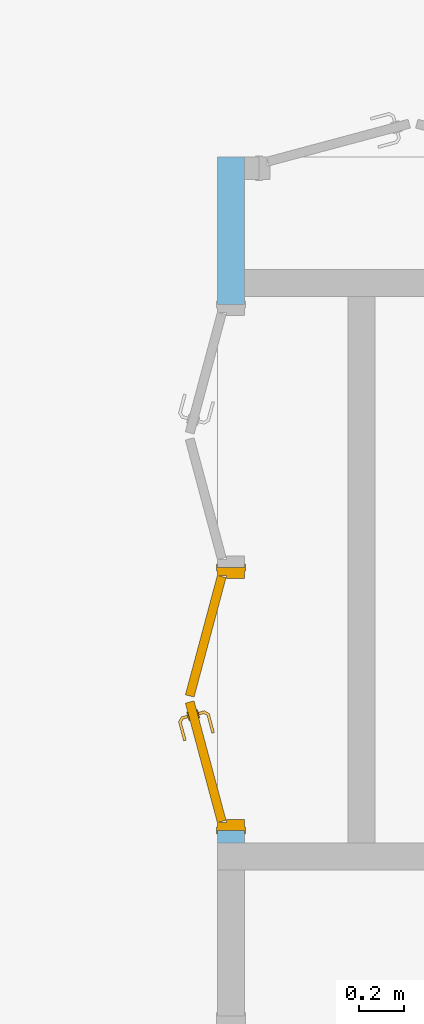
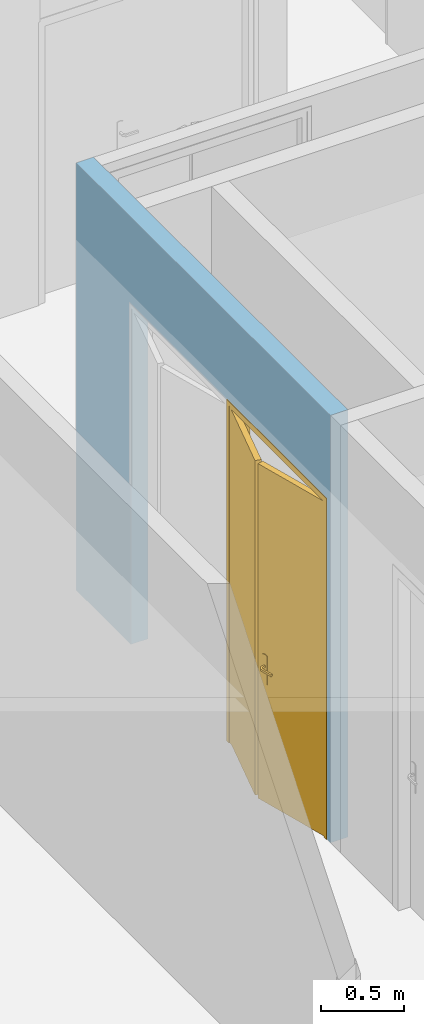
# One storey, part 193 of 240: 1 door, 2 openings, plus 1 element that does not belong to this part.
"""IFC2X3 building model written with IfcOpenShell, lengths in centimetres."""

from ifc_helpers import new_model, entity, si_unit, converted_unit, derived_unit, direction, frame, frame_2d, origin, place, context, subcontext, project, spatial, rectangle, extrude, faceted_brep, source, transform, mapped, material, material_list, layer, layer_set, layer_usage, type_object, type_shapes, element, fill, save


model = new_model("IFC2X3")

# Units and contexts
model_context = context("Model", 3, precision=0.001, world=origin(), true_north=direction((6.12303176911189e-17, 1.0)))
body_context = subcontext(model_context, "Body", "Model", "MODEL_VIEW")
ifc_project = project(units=[si_unit("LENGTHUNIT", "METRE", prefix="CENTI"), si_unit("AREAUNIT", "SQUARE_METRE"), si_unit("VOLUMEUNIT", "CUBIC_METRE"), converted_unit("PLANEANGLEUNIT", "DEGREE", entity("IfcRatioMeasure", 0.0174532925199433), si_unit("PLANEANGLEUNIT", "RADIAN"), dimensions=[0, 0, 0, 0, 0, 0, 0]), si_unit("MASSUNIT", "GRAM", prefix="KILO"), derived_unit("MASSDENSITYUNIT", [(si_unit("MASSUNIT", "GRAM", prefix="KILO"), 1), (si_unit("LENGTHUNIT", "METRE"), -3)]), si_unit("TIMEUNIT", "SECOND"), si_unit("FREQUENCYUNIT", "HERTZ"), si_unit("THERMODYNAMICTEMPERATUREUNIT", "DEGREE_CELSIUS"), derived_unit("THERMALTRANSMITTANCEUNIT", [(si_unit("MASSUNIT", "GRAM", prefix="KILO"), 1), (si_unit("THERMODYNAMICTEMPERATUREUNIT", "KELVIN"), -1), (si_unit("TIMEUNIT", "SECOND"), -3)]), derived_unit("VOLUMETRICFLOWRATEUNIT", [(si_unit("LENGTHUNIT", "METRE"), 3), (si_unit("TIMEUNIT", "SECOND"), -1)]), si_unit("ELECTRICCURRENTUNIT", "AMPERE"), si_unit("ELECTRICVOLTAGEUNIT", "VOLT"), si_unit("POWERUNIT", "WATT"), si_unit("FORCEUNIT", "NEWTON", prefix="KILO"), si_unit("ILLUMINANCEUNIT", "LUX"), si_unit("LUMINOUSFLUXUNIT", "LUMEN"), si_unit("LUMINOUSINTENSITYUNIT", "CANDELA"), derived_unit("USERDEFINED", [(si_unit("MASSUNIT", "GRAM", prefix="KILO"), -1), (si_unit("LENGTHUNIT", "METRE"), -2), (si_unit("TIMEUNIT", "SECOND"), 3), (si_unit("LUMINOUSFLUXUNIT", "LUMEN"), 1)]), derived_unit("LINEARVELOCITYUNIT", [(si_unit("LENGTHUNIT", "METRE"), 1), (si_unit("TIMEUNIT", "SECOND"), -1)]), si_unit("PRESSUREUNIT", "PASCAL"), derived_unit("USERDEFINED", [(si_unit("LENGTHUNIT", "METRE"), -2), (si_unit("MASSUNIT", "GRAM", prefix="KILO"), 1), (si_unit("TIMEUNIT", "SECOND"), -2)])], contexts=[model_context])

# Site, building, storey
site_placement = place(None, frame((-2781.94577612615, 7442.24238424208, 0.0)))
site = spatial("IfcSite", under=ifc_project, at=site_placement, Name="Default", CompositionType="ELEMENT")
building_placement = place(site_placement, origin())
building = spatial("IfcBuilding", under=site, at=building_placement, CompositionType="ELEMENT")
storey_placement = place(building_placement, origin())
storey = spatial("IfcBuildingStorey", under=building, at=storey_placement, Name="N00 - COO", CompositionType="ELEMENT", Elevation=0.0)

# Wall, openings, door
ifc_material_1 = material(Name="01 - Enduit/Plâtre")
ifc_layer_1 = layer(ifc_material_1, 1.0)
ifc_material_2 = material(Name="Maçonnerie - Béton")
ifc_layer_2 = layer(ifc_material_2, 10.0)
ifc_layer_3 = layer(ifc_material_1, 1.0)
ifc_layer_set = layer_set([ifc_layer_1, ifc_layer_2, ifc_layer_3], Name="Mur de base:06 - cloisons - agglos10 + faïence 12cm")
ifc_layer_usage = layer_usage(ifc_layer_set, "AXIS2", "NEGATIVE", 6.0)
wall_type = type_object("IfcWallType", Name="Mur de base:06 - cloisons - agglos10 + faïence 12cm", PredefinedType="STANDARD", material=ifc_layer_set)
wall_placement = place(building_placement, frame((-10470.6130476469, -2673.07903364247, 0.0), z_axis=(0.0, 0.0, 1.0), x_axis=(0.0, -1.0, 0.0)))
wall = element("IfcWallStandardCase", 1, at=wall_placement, inside=storey, type_object=wall_type, material=ifc_layer_usage, Name="Mur de base:06 - cloisons - agglos10 + faïence 12cm", ObjectType="Mur de base:06 - cloisons - agglos10 + faïence 12cm", context=body_context, shape_type="SweptSolid", body=[
    extrude(rectangle(XDim=305.000000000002, YDim=12.0000000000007, at=frame_2d((152.500000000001, 0.0), x_axis=(-1.0, 0.0))), origin(), (0.0, 0.0, 1.0), 313.0),
])
opening_1_placement = place(wall_placement, frame((182.500000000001, 6.0, 0.0)))
element("IfcOpeningElement", 2, at=opening_1_placement, cuts=wall, Name="Int. Double:PP Placard (1.10m x 2.50m):1", ObjectType="Opening", context=body_context, shape_type="SweptSolid", body=[
    extrude(rectangle(XDim=248.500000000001, YDim=117.0, at=frame_2d((124.250000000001, 58.5000000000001), x_axis=(1.0, 0.0))), frame((0.0, 0.0, 0.0), z_axis=(0.0, -1.0, 0.0), x_axis=(0.0, 0.0, 1.0)), (0.0, 0.0, 1.0), 12.0),
])
opening_2_placement = place(wall_placement, frame((299.500000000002, 6.0, 0.0)))
opening_2 = element("IfcOpeningElement", 3, at=opening_2_placement, cuts=wall, Name="Int. Double:PP Placard (1.10m x 2.50m):1", ObjectType="Opening", context=body_context, shape_type="SweptSolid", body=[
    extrude(rectangle(XDim=248.500000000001, YDim=117.0, at=frame_2d((124.250000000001, 58.5000000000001), x_axis=(1.0, 0.0))), frame((0.0, 0.0, 0.0), z_axis=(0.0, -1.0, 0.0), x_axis=(0.0, 0.0, 1.0)), (0.0, 0.0, 1.0), 12.0),
])
ifc_material_3 = material(Name="Bois - Panneau de porte")
ifc_material_4 = material(Name="Finition Peinture - Blanc satiné")
ifc_material_5 = material(Name="Bois - Cadre de porte")
ifc_material_list_1 = material_list([ifc_material_3, ifc_material_4, ifc_material_5])
ifc_material_list_2 = material_list([ifc_material_3, ifc_material_4, ifc_material_5])
door_style = type_object("IfcDoorStyle", Name="PP Placard (1.10m x 2.50m)", ConstructionType="NOTDEFINED", OperationType="DOUBLE_DOOR_SINGLE_SWING", ParameterTakesPrecedence=False, Sizeable=False, material=ifc_material_list_2)
shared_shape = source(origin(), body_context, "Body", "Brep", [
    faceted_brep([(57.6611966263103, -10.3713441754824, 245.0), (57.6611966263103, -10.3713441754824, 0.0), (4.53527618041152, 3.86370330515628, 0.0), (4.53527618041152, 3.86370330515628, 245.0), (56.6259204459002, -14.2350474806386, 245.0), (3.50000000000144, 0.0, 245.0), (3.50000000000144, 0.0, 0.0), (56.6259204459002, -14.2350474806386, 0.0)], [[[0, 1, 2, 3]], [[4, 5, 6, 7]], [[3, 5, 4, 0]], [[2, 6, 5, 3]], [[1, 7, 6, 2]], [[0, 4, 7, 1]]]),
    faceted_brep([(67.2990440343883, -12.897146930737, 86.6003983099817), (68.2308956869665, -12.6474580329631, 87.0), (68.2308956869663, -12.6474580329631, 108.0), (67.2990440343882, -12.897146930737, 108.399601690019), (66.2990440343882, -13.1650961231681, 108.535898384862), (65.2990440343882, -13.4330453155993, 108.399601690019), (64.3671923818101, -13.6827342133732, 108.0), (64.3671923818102, -13.6827342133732, 87.0), (65.2990440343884, -13.4330453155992, 86.6003983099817), (66.2990440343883, -13.1650961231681, 86.464101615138), (67.169634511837, -12.4141840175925, 108.399601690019), (68.1014861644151, -12.1644951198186, 108.0), (68.1014861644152, -12.1644951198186, 87.0), (67.1696345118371, -12.4141840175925, 86.6003983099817), (66.1696345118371, -12.6821332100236, 86.464101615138), (65.1696345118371, -12.9500824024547, 86.6003983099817), (64.2377828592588, -13.1997713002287, 87.0), (64.2377828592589, -13.1997713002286, 108.0), (65.169634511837, -12.9500824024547, 108.399601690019), (66.169634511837, -12.6821332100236, 108.535898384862)], [[[0, 1, 2, 3, 4, 5, 6, 7, 8, 9]], [[10, 11, 12, 13, 14, 15, 16, 17, 18, 19]], [[16, 15, 8, 7]], [[8, 15, 14, 9]], [[14, 13, 0, 9]], [[13, 12, 1, 0]], [[2, 1, 12, 11]], [[11, 10, 3, 2]], [[3, 10, 19, 4]], [[19, 18, 5, 4]], [[18, 17, 6, 5]], [[7, 6, 17, 16]]]),
    faceted_brep([(66.134358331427, -8.55048071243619, 86.6003983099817), (67.0662099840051, -8.30079181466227, 87.0), (67.066209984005, -8.30079181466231, 108.0), (66.1343583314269, -8.55048071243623, 108.399601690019), (65.1343583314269, -8.81842990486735, 108.535898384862), (64.1343583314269, -9.08637909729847, 108.399601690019), (63.2025066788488, -9.33606799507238, 108.0), (63.2025066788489, -9.33606799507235, 87.0), (64.134358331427, -9.08637909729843, 86.6003983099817), (65.134358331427, -8.81842990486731, 86.464101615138), (66.0049488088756, -8.0675177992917, 108.399601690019), (66.9368004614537, -7.81782890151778, 108.0), (66.9368004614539, -7.81782890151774, 87.0), (66.0049488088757, -8.06751779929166, 86.6003983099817), (65.0049488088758, -8.33546699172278, 86.464101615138), (64.0049488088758, -8.6034161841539, 86.6003983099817), (63.0730971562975, -8.85310508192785, 87.0), (63.0730971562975, -8.85310508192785, 108.0), (64.0049488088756, -8.60341618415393, 108.399601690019), (65.0049488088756, -8.33546699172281, 108.535898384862)], [[[0, 1, 2, 3, 4, 5, 6, 7, 8, 9]], [[10, 11, 12, 13, 14, 15, 16, 17, 18, 19]], [[11, 10, 3, 2]], [[3, 10, 19, 4]], [[19, 18, 5, 4]], [[18, 17, 6, 5]], [[7, 6, 17, 16]], [[16, 15, 8, 7]], [[8, 15, 14, 9]], [[14, 13, 0, 9]], [[13, 12, 1, 0]], [[2, 1, 12, 11]]]),
    faceted_brep([(66.1034152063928, -13.2175147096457, 100.778044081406), (66.4946728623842, -13.1126775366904, 100.778044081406), (66.8785995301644, -13.0098046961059, 100.699999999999), (66.8785995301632, -13.0098046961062, 99.3000000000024), (66.4946728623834, -13.1126775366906, 99.2219559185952), (66.1034152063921, -13.217514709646, 99.221955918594), (65.7194885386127, -13.3203875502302, 99.2999999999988), (65.7194885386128, -13.3203875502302, 100.7), (66.4351478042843, -15.9912642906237, 100.7), (66.7764631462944, -15.7293638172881, 100.778044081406), (68.742041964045, -16.8641912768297, 100.778044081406), (68.7992690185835, -16.4295086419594, 100.778044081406), (67.1242958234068, -15.4624624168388, 100.778044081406), (67.4656111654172, -15.200561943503, 100.7), (67.4656111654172, -15.2005619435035, 99.3000000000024), (67.1242958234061, -15.4624624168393, 99.2219559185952), (68.7992690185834, -16.4295086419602, 99.2219559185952), (68.7420419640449, -16.8641912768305, 99.221955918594), (66.7764631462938, -15.7293638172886, 99.221955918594), (66.4351478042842, -15.9912642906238, 99.2999999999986), (68.6858871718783, -17.2907292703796, 100.7), (68.8554238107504, -16.0029706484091, 100.7), (68.8554238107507, -16.0029706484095, 99.3000000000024), (68.6858871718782, -17.2907292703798, 99.2999999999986), (77.1513993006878, -15.0224021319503, 99.2999999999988), (77.0485264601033, -14.63847546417, 99.221955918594), (76.9436892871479, -14.2472178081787, 99.2219559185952), (76.8408164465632, -13.8632911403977, 99.3000000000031), (76.8408164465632, -13.8632911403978, 100.7), (76.9436892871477, -14.2472178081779, 100.778044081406), (77.048526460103, -14.6384754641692, 100.778044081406), (77.1513993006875, -15.0224021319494, 100.699999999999), (72.5428760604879, -16.257252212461, 100.7), (72.9238977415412, -15.5339920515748, 100.78786867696), (72.8481201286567, -14.9331308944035, 100.7), (72.8481201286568, -14.9331308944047, 99.3000000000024), (72.9238977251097, -15.5339920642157, 99.2121313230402), (72.5428763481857, -16.2572521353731, 99.2999999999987)], [[[0, 1, 2, 3, 4, 5, 6, 7]], [[8, 9, 0, 7]], [[9, 10, 11, 12, 1, 0]], [[12, 13, 2, 1]], [[3, 2, 13, 14]], [[14, 15, 4, 3]], [[15, 16, 17, 18, 5, 4]], [[18, 19, 6, 5]], [[7, 6, 19, 8]], [[20, 10, 9, 8]], [[11, 21, 13, 12]], [[14, 13, 21, 22]], [[22, 16, 15, 14]], [[17, 23, 19, 18]], [[8, 19, 23, 20]], [[24, 25, 26, 27, 28, 29, 30, 31]], [[32, 30, 33]], [[31, 30, 32]], [[10, 20, 32]], [[33, 34, 11]], [[21, 11, 34]], [[34, 29, 28]], [[30, 29, 33]], [[29, 34, 33]], [[10, 32, 33]], [[10, 33, 11]], [[22, 21, 34, 28, 27, 35]], [[35, 26, 36]], [[37, 36, 25]], [[22, 35, 16]], [[35, 27, 26]], [[24, 37, 25]], [[23, 17, 37]], [[37, 17, 36]], [[17, 16, 36]], [[16, 35, 36]], [[25, 36, 26]], [[20, 23, 37, 24, 31, 32]]]),
    faceted_brep([(64.8093199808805, -8.38788557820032, 100.778044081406), (64.4253933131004, -8.49075841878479, 100.7), (64.4253933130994, -8.49075841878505, 99.2999999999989), (64.8093199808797, -8.38788557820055, 99.221955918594), (65.2005776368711, -8.28304840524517, 99.2219559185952), (65.5845043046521, -8.18017556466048, 99.3000000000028), (65.5845043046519, -8.18017556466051, 100.7), (65.2005776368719, -8.28304840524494, 100.778044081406), (65.0025443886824, -6.00827159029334, 99.3000000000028), (65.0025443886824, -6.00827159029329, 100.7), (64.5760063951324, -5.95211679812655, 100.778044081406), (65.5527759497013, -4.26030230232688, 100.778044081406), (65.285874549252, -3.9124696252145, 100.778044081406), (64.141323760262, -5.89488974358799, 100.778044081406), (63.7147857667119, -5.83873495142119, 100.7), (63.7147857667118, -5.8387349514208, 99.2999999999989), (64.1413237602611, -5.89488974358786, 99.221955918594), (65.2858745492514, -3.91246962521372, 99.221955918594), (65.5527759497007, -4.26030230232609, 99.2219559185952), (64.5760063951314, -5.95211679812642, 99.2219559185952), (65.814676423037, -4.60161764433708, 99.3000000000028), (65.814676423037, -4.60161764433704, 100.7), (65.0239740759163, -3.57115428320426, 100.7), (65.0239740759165, -3.57115428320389, 99.2999999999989), (73.789408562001, -2.46479460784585, 99.3000000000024), (73.6865357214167, -2.08086794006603, 99.2219559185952), (73.5816985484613, -1.68961028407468, 99.221955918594), (73.4788257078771, -1.30568361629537, 99.2999999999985), (73.4788257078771, -1.30568361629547, 100.7), (73.5816985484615, -1.68961028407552, 100.778044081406), (73.6865357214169, -2.08086794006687, 100.778044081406), (73.7894085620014, -2.46479460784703, 100.7), (69.8020413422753, -3.53320643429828, 99.3000000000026), (69.8020424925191, -3.53320612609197, 100.7), (69.5672372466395, -2.97495629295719, 100.78786867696), (68.8809629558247, -2.53767722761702, 100.7), (68.880962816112, -2.53767726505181, 99.2999999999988), (69.5672372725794, -2.97495629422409, 99.2121313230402)], [[[0, 1, 2, 3, 4, 5, 6, 7]], [[6, 5, 8, 9]], [[9, 10, 7, 6]], [[10, 11, 12, 13, 0, 7]], [[13, 14, 1, 0]], [[2, 1, 14, 15]], [[15, 16, 3, 2]], [[16, 17, 18, 19, 4, 3]], [[19, 8, 5, 4]], [[9, 8, 20, 21]], [[21, 11, 10, 9]], [[12, 22, 14, 13]], [[15, 14, 22, 23]], [[23, 17, 16, 15]], [[18, 20, 8, 19]], [[24, 25, 26, 27, 28, 29, 30, 31]], [[21, 20, 32, 24, 31, 33]], [[33, 30, 34]], [[35, 34, 29]], [[21, 33, 11]], [[33, 31, 30]], [[28, 35, 29]], [[22, 12, 35]], [[35, 12, 34]], [[12, 11, 34]], [[11, 33, 34]], [[29, 34, 30]], [[22, 35, 28, 27, 36, 23]], [[36, 26, 37]], [[27, 26, 36]], [[17, 23, 36]], [[37, 32, 18]], [[20, 18, 32]], [[32, 25, 24]], [[26, 25, 37]], [[25, 32, 37]], [[17, 36, 37]], [[17, 37, 18]]]),
    faceted_brep([(59.3388033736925, -10.3713441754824, 245.0), (112.464723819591, 3.86370330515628, 245.0), (112.464723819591, 3.86370330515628, 0.0), (59.3388033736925, -10.3713441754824, 0.0), (60.3740795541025, -14.2350474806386, 245.0), (60.3740795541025, -14.2350474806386, 0.0), (113.500000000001, 0.0, 0.0), (113.500000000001, 0.0, 245.0)], [[[0, 1, 2, 3]], [[4, 5, 6, 7]], [[1, 0, 4, 7]], [[2, 1, 7, 6]], [[3, 2, 6, 5]], [[0, 3, 5, 4]]]),
    faceted_brep([(0.0, 0.0, 0.0), (0.0, 12.0, 0.0), (5.0, 12.0, 0.0), (5.0, 4.0, 0.0), (3.50000000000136, 4.0, 0.0), (3.50000000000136, 0.0, 0.0), (0.0, 0.0, 248.500000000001), (0.0, 12.0, 248.500000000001), (117.0, 12.0, 248.500000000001), (117.0, 12.0, 0.0), (112.0, 12.0, 0.0), (112.0, 12.0, 243.5), (5.0, 12.0, 243.5), (5.0, 4.0, 243.5), (112.0, 4.0, 243.5), (112.0, 4.0, 0.0), (113.499999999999, 4.0, 0.0), (113.499999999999, 4.0, 245.0), (3.50000000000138, 4.0, 245.0), (3.50000000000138, 0.0, 245.0), (113.499999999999, 0.0, 245.0), (113.499999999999, 0.0, 0.0), (117.0, 0.0, 0.0), (117.0, 0.0, 248.500000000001)], [[[0, 1, 2, 3, 4, 5]], [[1, 0, 6, 7]], [[2, 1, 7, 8, 9, 10, 11, 12]], [[3, 2, 12, 13]], [[4, 3, 13, 14, 15, 16, 17, 18]], [[5, 4, 18, 19]], [[0, 5, 19, 20, 21, 22, 23, 6]], [[8, 23, 22, 9]], [[22, 21, 16, 15, 10, 9]], [[14, 11, 10, 15]], [[20, 17, 16, 21]], [[7, 6, 23, 8]], [[13, 12, 11, 14]], [[19, 18, 17, 20]]]),
    faceted_brep([(1.50000000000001, 12.0, 0.0), (-1.49999999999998, 12.0, 0.0), (-1.49999999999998, 12.5000000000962, 0.0), (1.50000000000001, 12.5000000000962, 0.0), (1.50000000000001, 12.0, 247.0), (115.5, 12.0, 247.0), (115.5, 12.0, 0.0), (118.5, 12.0, 0.0), (118.5, 12.0, 250.0), (-1.5, 12.0, 250.0), (-1.5, 12.5000000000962, 250.0), (118.5, 12.5000000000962, 250.0), (118.5, 12.5000000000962, 0.0), (115.5, 12.5000000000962, 0.0), (115.5, 12.5000000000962, 247.0), (1.50000000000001, 12.5000000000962, 247.0)], [[[0, 1, 2, 3]], [[1, 0, 4, 5, 6, 7, 8, 9]], [[2, 1, 9, 10]], [[3, 2, 10, 11, 12, 13, 14, 15]], [[0, 3, 15, 4]], [[5, 14, 13, 6]], [[6, 13, 12, 7]], [[11, 8, 7, 12]], [[10, 9, 8, 11]], [[4, 15, 14, 5]]]),
    faceted_brep([(-1.49999999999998, -0.499999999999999, 0.0), (1.50000000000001, -0.499999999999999, 0.0), (1.50000000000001, -0.499999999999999, 247.0), (115.5, -0.499999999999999, 247.0), (115.5, -0.499999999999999, 0.0), (118.5, -0.499999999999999, 0.0), (118.5, -0.499999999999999, 250.0), (-1.5, -0.499999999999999, 250.0), (-1.49999999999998, 0.0, 0.0), (-1.5, 0.0, 250.0), (1.50000000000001, 0.0, 0.0), (118.5, 0.0, 250.0), (118.5, 0.0, 0.0), (115.5, 0.0, 0.0), (115.5, 0.0, 247.0), (1.50000000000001, 0.0, 247.0)], [[[0, 1, 2, 3, 4, 5, 6, 7]], [[8, 0, 7, 9]], [[10, 8, 9, 11, 12, 13, 14, 15]], [[1, 10, 15, 2]], [[3, 14, 13, 4]], [[11, 6, 5, 12]], [[9, 7, 6, 11]], [[2, 15, 14, 3]], [[4, 13, 12, 5]], [[1, 0, 8, 10]]]),
])
type_shapes(door_style, [shared_shape])
door_placement = place(opening_2_placement, frame((-117.0, -12.0, 0.0)))
door = element("IfcDoor", 4, at=door_placement, inside=storey, type_object=door_style, material=ifc_material_list_1, Name="Int. Double:PP Placard (1.10m x 2.50m)", ObjectType="Int. Double:PP Placard (1.10m x 2.50m)", OverallHeight=248.500000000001, OverallWidth=117.0, context=body_context, shape_type="MappedRepresentation", body=[
    mapped(shared_shape, transform((0.0, 0.0, 0.0), scale=1.0)),
])
fill(opening_2, door)

save(model, "model.ifc")
